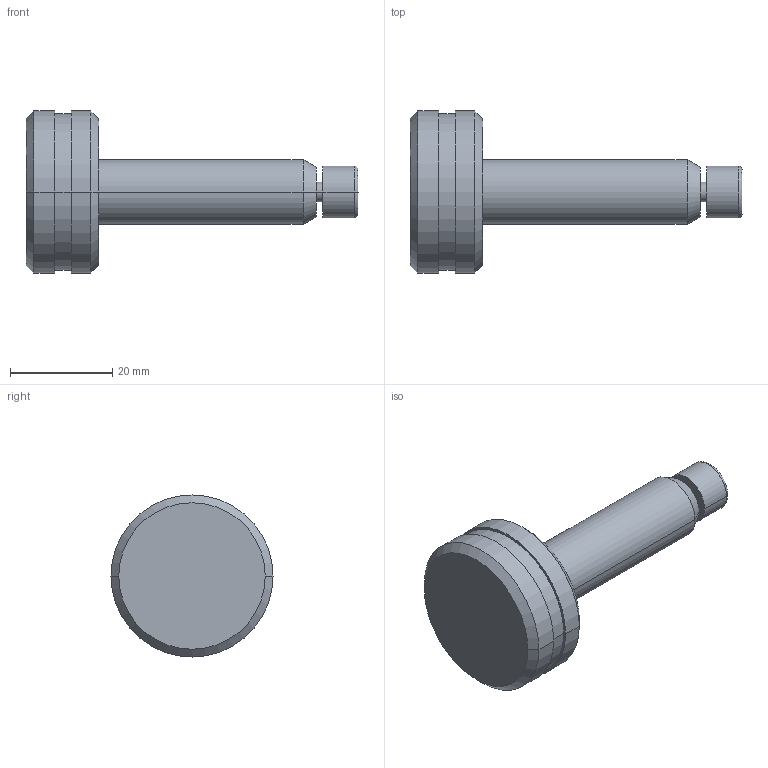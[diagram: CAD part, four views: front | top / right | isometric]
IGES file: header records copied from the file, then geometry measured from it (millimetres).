
Start section:  PTC IGES file: sch347-part.igs
Global section: file name: sch347-part.igs; native system: Pro/ENGINEER by Parametric Technology Corporation; preprocessor: 2002350; author: chant; organization: Unknown; date: 070529.164651; units: inch
Bounding box: 65.02 x 31.75 x 31.75 mm (x, y, z)
Surface area: 5086.8 mm2 (no closed solid volume)
Topology: 0 solids, 0 shells, 33 faces, 172 edges, 194 vertices
Faces by surface type: revolution 26, bspline 7
